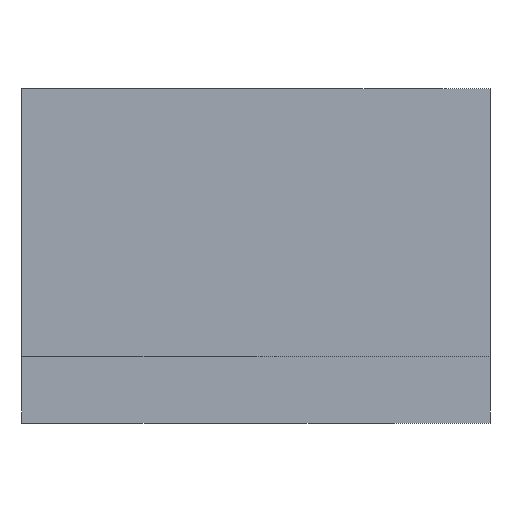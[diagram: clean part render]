
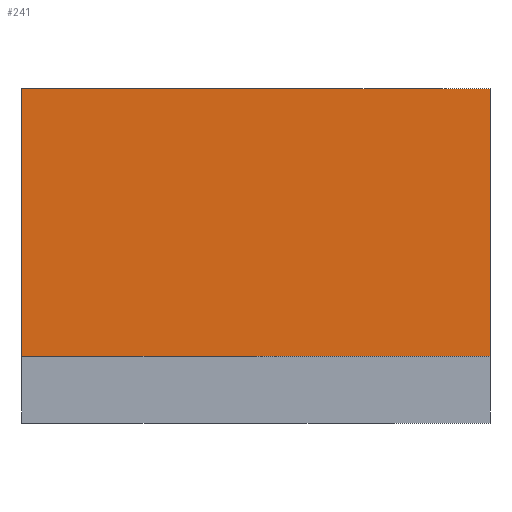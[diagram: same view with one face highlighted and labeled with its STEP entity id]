
A CAD part, front view. The second image highlights one B-rep face of the part: STEP entity #241.
In plain terms, the highlighted planar face has unit normal (0, -1, 0).
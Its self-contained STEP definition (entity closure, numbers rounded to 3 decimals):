
#21 = EDGE_CURVE('',#22,#24,#26,.T.);
#22 = VERTEX_POINT('',#23);
#23 = CARTESIAN_POINT('',(-2.,-30.,82.));
#24 = VERTEX_POINT('',#25);
#25 = CARTESIAN_POINT('',(-2.,-30.,90.));
#26 = SURFACE_CURVE('',#27,(#31,#43),.PCURVE_S1.);
#27 = LINE('',#28,#29);
#28 = CARTESIAN_POINT('',(-2.,-30.,80.));
#29 = VECTOR('',#30,1.);
#30 = DIRECTION('',(0.,0.,1.));
#31 = PCURVE('',#32,#37);
#32 = PLANE('',#33);
#33 = AXIS2_PLACEMENT_3D('',#34,#35,#36);
#34 = CARTESIAN_POINT('',(-2.,-30.,80.));
#35 = DIRECTION('',(1.,0.,-0.));
#36 = DIRECTION('',(0.,0.,1.));
#37 = DEFINITIONAL_REPRESENTATION('',(#38),#42);
#38 = LINE('',#39,#40);
#39 = CARTESIAN_POINT('',(0.,0.));
#40 = VECTOR('',#41,1.);
#41 = DIRECTION('',(1.,0.));
#42 = ( GEOMETRIC_REPRESENTATION_CONTEXT(2) 
PARAMETRIC_REPRESENTATION_CONTEXT() REPRESENTATION_CONTEXT('2D SPACE',''
  ) );
#43 = PCURVE('',#44,#49);
#44 = PLANE('',#45);
#45 = AXIS2_PLACEMENT_3D('',#46,#47,#48);
#46 = CARTESIAN_POINT('',(-2.,-30.,80.));
#47 = DIRECTION('',(-0.,1.,0.));
#48 = DIRECTION('',(0.,0.,1.));
#49 = DEFINITIONAL_REPRESENTATION('',(#50),#54);
#50 = LINE('',#51,#52);
#51 = CARTESIAN_POINT('',(0.,0.));
#52 = VECTOR('',#53,1.);
#53 = DIRECTION('',(1.,0.));
#54 = ( GEOMETRIC_REPRESENTATION_CONTEXT(2) 
PARAMETRIC_REPRESENTATION_CONTEXT() REPRESENTATION_CONTEXT('2D SPACE',''
  ) );
#71 = PLANE('',#72);
#72 = AXIS2_PLACEMENT_3D('',#73,#74,#75);
#73 = CARTESIAN_POINT('',(-3.,-31.,82.));
#74 = DIRECTION('',(0.,0.,1.));
#75 = DIRECTION('',(1.,0.,-0.));
#230 = PLANE('',#231);
#231 = AXIS2_PLACEMENT_3D('',#232,#233,#234);
#232 = CARTESIAN_POINT('',(-2.,-30.,90.));
#233 = DIRECTION('',(0.,0.,1.));
#234 = DIRECTION('',(1.,0.,-0.));
#241 = ADVANCED_FACE('',(#242),#44,.F.);
#242 = FACE_BOUND('',#243,.F.);
#243 = EDGE_LOOP('',(#244,#274,#293,#294));
#244 = ORIENTED_EDGE('',*,*,#245,.F.);
#245 = EDGE_CURVE('',#246,#248,#250,.T.);
#246 = VERTEX_POINT('',#247);
#247 = CARTESIAN_POINT('',(12.,-30.,82.));
#248 = VERTEX_POINT('',#249);
#249 = CARTESIAN_POINT('',(12.,-30.,90.));
#250 = SURFACE_CURVE('',#251,(#255,#262),.PCURVE_S1.);
#251 = LINE('',#252,#253);
#252 = CARTESIAN_POINT('',(12.,-30.,80.));
#253 = VECTOR('',#254,1.);
#254 = DIRECTION('',(0.,0.,1.));
#255 = PCURVE('',#44,#256);
#256 = DEFINITIONAL_REPRESENTATION('',(#257),#261);
#257 = LINE('',#258,#259);
#258 = CARTESIAN_POINT('',(0.,14.));
#259 = VECTOR('',#260,1.);
#260 = DIRECTION('',(1.,0.));
#261 = ( GEOMETRIC_REPRESENTATION_CONTEXT(2) 
PARAMETRIC_REPRESENTATION_CONTEXT() REPRESENTATION_CONTEXT('2D SPACE',''
  ) );
#262 = PCURVE('',#263,#268);
#263 = PLANE('',#264);
#264 = AXIS2_PLACEMENT_3D('',#265,#266,#267);
#265 = CARTESIAN_POINT('',(12.,-30.,80.));
#266 = DIRECTION('',(1.,0.,-0.));
#267 = DIRECTION('',(0.,0.,1.));
#268 = DEFINITIONAL_REPRESENTATION('',(#269),#273);
#269 = LINE('',#270,#271);
#270 = CARTESIAN_POINT('',(0.,0.));
#271 = VECTOR('',#272,1.);
#272 = DIRECTION('',(1.,0.));
#273 = ( GEOMETRIC_REPRESENTATION_CONTEXT(2) 
PARAMETRIC_REPRESENTATION_CONTEXT() REPRESENTATION_CONTEXT('2D SPACE',''
  ) );
#274 = ORIENTED_EDGE('',*,*,#275,.F.);
#275 = EDGE_CURVE('',#22,#246,#276,.T.);
#276 = SURFACE_CURVE('',#277,(#281,#287),.PCURVE_S1.);
#277 = LINE('',#278,#279);
#278 = CARTESIAN_POINT('',(-2.5,-30.,82.));
#279 = VECTOR('',#280,1.);
#280 = DIRECTION('',(1.,0.,-0.));
#281 = PCURVE('',#44,#282);
#282 = DEFINITIONAL_REPRESENTATION('',(#283),#286);
#283 = B_SPLINE_CURVE_WITH_KNOTS('',1,(#284,#285),.UNSPECIFIED.,.F.,.F.,
  (2,2),(0.5,14.5),.PIECEWISE_BEZIER_KNOTS.);
#284 = CARTESIAN_POINT('',(2.,0.));
#285 = CARTESIAN_POINT('',(2.,14.));
#286 = ( GEOMETRIC_REPRESENTATION_CONTEXT(2) 
PARAMETRIC_REPRESENTATION_CONTEXT() REPRESENTATION_CONTEXT('2D SPACE',''
  ) );
#287 = PCURVE('',#71,#288);
#288 = DEFINITIONAL_REPRESENTATION('',(#289),#292);
#289 = B_SPLINE_CURVE_WITH_KNOTS('',1,(#290,#291),.UNSPECIFIED.,.F.,.F.,
  (2,2),(0.5,14.5),.PIECEWISE_BEZIER_KNOTS.);
#290 = CARTESIAN_POINT('',(1.,1.));
#291 = CARTESIAN_POINT('',(15.,1.));
#292 = ( GEOMETRIC_REPRESENTATION_CONTEXT(2) 
PARAMETRIC_REPRESENTATION_CONTEXT() REPRESENTATION_CONTEXT('2D SPACE',''
  ) );
#293 = ORIENTED_EDGE('',*,*,#21,.T.);
#294 = ORIENTED_EDGE('',*,*,#295,.T.);
#295 = EDGE_CURVE('',#24,#248,#296,.T.);
#296 = SURFACE_CURVE('',#297,(#301,#308),.PCURVE_S1.);
#297 = LINE('',#298,#299);
#298 = CARTESIAN_POINT('',(-2.,-30.,90.));
#299 = VECTOR('',#300,1.);
#300 = DIRECTION('',(1.,0.,-0.));
#301 = PCURVE('',#44,#302);
#302 = DEFINITIONAL_REPRESENTATION('',(#303),#307);
#303 = LINE('',#304,#305);
#304 = CARTESIAN_POINT('',(10.,0.));
#305 = VECTOR('',#306,1.);
#306 = DIRECTION('',(0.,1.));
#307 = ( GEOMETRIC_REPRESENTATION_CONTEXT(2) 
PARAMETRIC_REPRESENTATION_CONTEXT() REPRESENTATION_CONTEXT('2D SPACE',''
  ) );
#308 = PCURVE('',#230,#309);
#309 = DEFINITIONAL_REPRESENTATION('',(#310),#314);
#310 = LINE('',#311,#312);
#311 = CARTESIAN_POINT('',(0.,0.));
#312 = VECTOR('',#313,1.);
#313 = DIRECTION('',(1.,0.));
#314 = ( GEOMETRIC_REPRESENTATION_CONTEXT(2) 
PARAMETRIC_REPRESENTATION_CONTEXT() REPRESENTATION_CONTEXT('2D SPACE',''
  ) );
